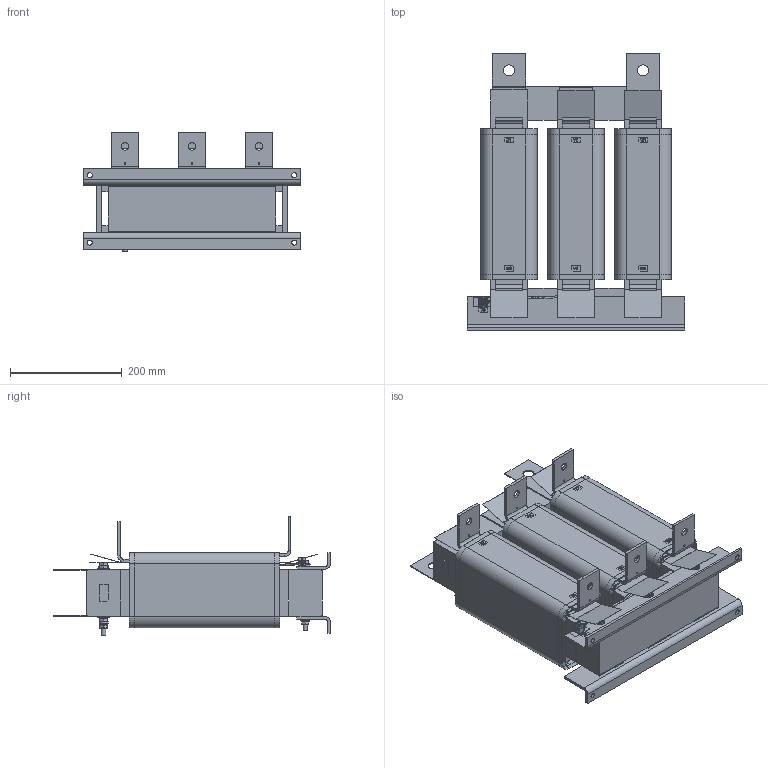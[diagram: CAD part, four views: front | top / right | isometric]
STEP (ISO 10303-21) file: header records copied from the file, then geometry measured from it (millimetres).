
FILE_DESCRIPTION(/* description */ ('raw material description'),/* implementation_level */ '2;1');
FILE_NAME(/* name */ 'C:\Users\Erika.Jenzer\Desktop\Neuer Ordner\FN5060HV-450-99.stp',/* time_stamp */ '2019-11-18T15:16:20+01:00',/* author */ ('erika.jenzer'),/* organization */ ('Schaffner EMV AG'),/* preprocessor_version */ 'ST-DEVELOPER v16.5',/* originating_system */ 'Autodesk Inventor 2017',/* authorisation */ '');
FILE_SCHEMA (('AUTOMOTIVE_DESIGN { 1 0 10303 214 3 1 1 }'));
Products named in the file (1): FN5060HV-450-99
Bounding box: 390 x 495.57 x 213.54 mm (x, y, z)
Volume: 12276806.1 mm3; surface area: 1529529.8 mm2
Topology: 39 solids, 53 shells, 1897 faces, 4906 edges, 3210 vertices
Faces by surface type: plane 1262, cylinder 403, cone 130, bspline 83, torus 18, sphere 1
Full cylindrical faces by diameter (mm): 0.01 x2, 1 x2, 2 x2, 2.5 x1, 2.8 x11, 3 x1, 3.4 x4, 8 x13, 8.2 x6, 8.4 x13, 9 x4, 9.9 x5, 10.5 x3, 11 x10, 11.4 x6, 13 x1, 13.5 x6, 16 x11, 18 x5, 20 x4
Entity records: 60173 total; most frequent: CARTESIAN_POINT 13024, ORIENTED_EDGE 9364, DIRECTION 8978, EDGE_CURVE 4675, LINE 3302, VECTOR 3302, VERTEX_POINT 3149, AXIS2_PLACEMENT_3D 2838
